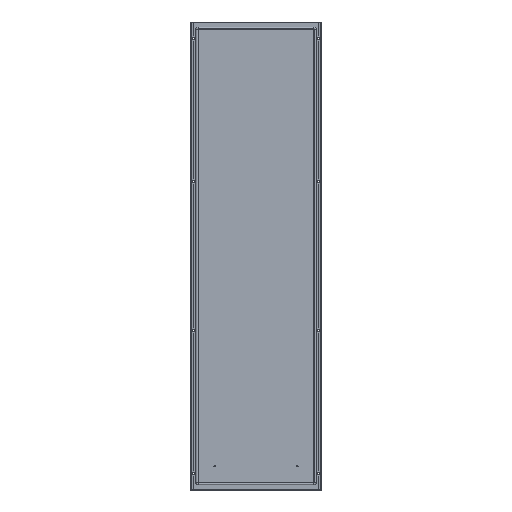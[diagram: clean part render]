
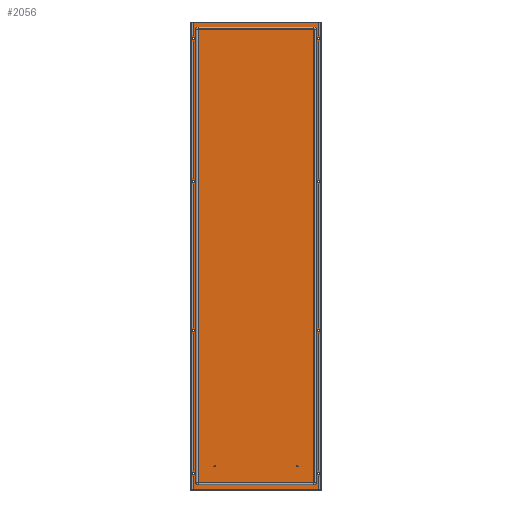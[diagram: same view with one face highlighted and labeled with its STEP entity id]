
A CAD part, top view. The second image highlights one B-rep face of the part: STEP entity #2056.
In plain terms, the highlighted planar face has unit normal (0, 0, 1).
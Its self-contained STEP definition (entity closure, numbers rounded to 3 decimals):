
#1036=CARTESIAN_POINT(' ',(-262.5,312.5,1.5));
#1041=DIRECTION(' ',(0.,0.,-1.));
#1046=DIRECTION(' ',(0.,-1.,0.));
#1051=AXIS2_PLACEMENT_3D(' ',#1036,#1041,#1046);
#1056=CIRCLE('',#1051,4.75);
#1061=CARTESIAN_POINT(' ',(-262.5,307.75,1.5));
#1062=VERTEX_POINT(' ',#1061);
#1066=CARTESIAN_POINT(' ',(-262.5,317.25,1.5));
#1067=VERTEX_POINT(' ',#1066);
#1071=EDGE_CURVE(' ',#1062,#1067,#1056,.T.);
#1201=DIRECTION(' ',(0.,0.,1.));
#1206=CARTESIAN_POINT(' ',(-270.9,-978.4,1.5));
#1211=DIRECTION(' ',(1.,0.,0.));
#1216=AXIS2_PLACEMENT_3D(' ',#1206,#1201,#1211);
#1221=PLANE('NONE',#1216);
#1226=CARTESIAN_POINT(' ',(270.9,-978.4,1.5));
#1231=DIRECTION(' ',(-1.,0.,0.));
#1236=VECTOR(' ',#1231,1.);
#1241=LINE('',#1226,#1236);
#1246=CARTESIAN_POINT(' ',(270.9,-978.4,1.5));
#1247=VERTEX_POINT(' ',#1246);
#1251=CARTESIAN_POINT(' ',(-270.9,-978.4,1.5));
#1252=VERTEX_POINT(' ',#1251);
#1256=EDGE_CURVE(' ',#1247,#1252,#1241,.T.);
#1261=ORIENTED_EDGE(' ',*,*,#1256,.F.);
#1266=CARTESIAN_POINT(' ',(270.9,978.4,1.5));
#1271=DIRECTION(' ',(0.,-1.,0.));
#1276=VECTOR(' ',#1271,1.);
#1281=LINE('',#1266,#1276);
#1286=CARTESIAN_POINT(' ',(270.9,978.4,1.5));
#1287=VERTEX_POINT(' ',#1286);
#1291=EDGE_CURVE(' ',#1287,#1247,#1281,.T.);
#1296=ORIENTED_EDGE(' ',*,*,#1291,.F.);
#1301=CARTESIAN_POINT(' ',(-270.9,978.4,1.5));
#1306=DIRECTION(' ',(1.,0.,0.));
#1311=VECTOR(' ',#1306,1.);
#1316=LINE('',#1301,#1311);
#1321=CARTESIAN_POINT(' ',(-270.9,978.4,1.5));
#1322=VERTEX_POINT(' ',#1321);
#1326=EDGE_CURVE(' ',#1322,#1287,#1316,.T.);
#1331=ORIENTED_EDGE(' ',*,*,#1326,.F.);
#1336=CARTESIAN_POINT(' ',(-270.9,-978.4,1.5));
#1341=DIRECTION(' ',(0.,1.,0.));
#1346=VECTOR(' ',#1341,1.);
#1351=LINE('',#1336,#1346);
#1356=EDGE_CURVE(' ',#1252,#1322,#1351,.T.);
#1361=ORIENTED_EDGE(' ',*,*,#1356,.F.);
#1366=EDGE_LOOP(' ',(#1261,#1296,#1331,#1361));
#1371=FACE_OUTER_BOUND(' ',#1366,.T.);
#1376=CARTESIAN_POINT(' ',(-262.5,-312.5,1.5));
#1381=DIRECTION(' ',(0.,0.,1.));
#1386=DIRECTION(' ',(0.,-1.,0.));
#1391=AXIS2_PLACEMENT_3D(' ',#1376,#1381,#1386);
#1396=CIRCLE('',#1391,4.75);
#1401=CARTESIAN_POINT(' ',(-262.5,-317.25,1.5));
#1402=VERTEX_POINT(' ',#1401);
#1406=CARTESIAN_POINT(' ',(-262.5,-307.75,1.5));
#1407=VERTEX_POINT(' ',#1406);
#1411=EDGE_CURVE(' ',#1402,#1407,#1396,.T.);
#1416=ORIENTED_EDGE(' ',*,*,#1411,.F.);
#1421=CARTESIAN_POINT(' ',(-262.5,-312.5,1.5));
#1426=DIRECTION(' ',(0.,0.,1.));
#1431=DIRECTION(' ',(0.,1.,0.));
#1436=AXIS2_PLACEMENT_3D(' ',#1421,#1426,#1431);
#1441=CIRCLE('',#1436,4.75);
#1446=EDGE_CURVE(' ',#1407,#1402,#1441,.T.);
#1451=ORIENTED_EDGE(' ',*,*,#1446,.F.);
#1456=EDGE_LOOP(' ',(#1416,#1451));
#1461=FACE_BOUND(' ',#1456,.T.);
#1466=CARTESIAN_POINT(' ',(-262.5,312.5,1.5));
#1471=DIRECTION(' ',(0.,0.,-1.));
#1476=DIRECTION(' ',(0.,1.,0.));
#1481=AXIS2_PLACEMENT_3D(' ',#1466,#1471,#1476);
#1486=CIRCLE('',#1481,4.75);
#1491=EDGE_CURVE(' ',#1067,#1062,#1486,.T.);
#1496=ORIENTED_EDGE(' ',*,*,#1491,.T.);
#1501=ORIENTED_EDGE(' ',*,*,#1071,.T.);
#1506=EDGE_LOOP(' ',(#1496,#1501));
#1511=FACE_BOUND(' ',#1506,.T.);
#1516=CARTESIAN_POINT(' ',(262.5,-912.5,1.5));
#1521=DIRECTION(' ',(0.,0.,-1.));
#1526=DIRECTION(' ',(0.,-1.,0.));
#1531=AXIS2_PLACEMENT_3D(' ',#1516,#1521,#1526);
#1536=CIRCLE('',#1531,4.75);
#1541=CARTESIAN_POINT(' ',(262.5,-917.25,1.5));
#1542=VERTEX_POINT(' ',#1541);
#1546=CARTESIAN_POINT(' ',(262.5,-907.75,1.5));
#1547=VERTEX_POINT(' ',#1546);
#1551=EDGE_CURVE(' ',#1542,#1547,#1536,.T.);
#1556=ORIENTED_EDGE(' ',*,*,#1551,.T.);
#1561=CARTESIAN_POINT(' ',(262.5,-912.5,1.5));
#1566=DIRECTION(' ',(0.,0.,-1.));
#1571=DIRECTION(' ',(0.,1.,0.));
#1576=AXIS2_PLACEMENT_3D(' ',#1561,#1566,#1571);
#1581=CIRCLE('',#1576,4.75);
#1586=EDGE_CURVE(' ',#1547,#1542,#1581,.T.);
#1591=ORIENTED_EDGE(' ',*,*,#1586,.T.);
#1596=EDGE_LOOP(' ',(#1556,#1591));
#1601=FACE_BOUND(' ',#1596,.T.);
#1606=CARTESIAN_POINT(' ',(-262.5,-912.5,1.5));
#1611=DIRECTION(' ',(0.,0.,1.));
#1616=DIRECTION(' ',(0.,-1.,0.));
#1621=AXIS2_PLACEMENT_3D(' ',#1606,#1611,#1616);
#1626=CIRCLE('',#1621,4.75);
#1631=CARTESIAN_POINT(' ',(-262.5,-917.25,1.5));
#1632=VERTEX_POINT(' ',#1631);
#1636=CARTESIAN_POINT(' ',(-262.5,-907.75,1.5));
#1637=VERTEX_POINT(' ',#1636);
#1641=EDGE_CURVE(' ',#1632,#1637,#1626,.T.);
#1646=ORIENTED_EDGE(' ',*,*,#1641,.F.);
#1651=CARTESIAN_POINT(' ',(-262.5,-912.5,1.5));
#1656=DIRECTION(' ',(0.,0.,1.));
#1661=DIRECTION(' ',(0.,1.,0.));
#1666=AXIS2_PLACEMENT_3D(' ',#1651,#1656,#1661);
#1671=CIRCLE('',#1666,4.75);
#1676=EDGE_CURVE(' ',#1637,#1632,#1671,.T.);
#1681=ORIENTED_EDGE(' ',*,*,#1676,.F.);
#1686=EDGE_LOOP(' ',(#1646,#1681));
#1691=FACE_BOUND(' ',#1686,.T.);
#1696=CARTESIAN_POINT(' ',(-262.5,912.5,1.5));
#1701=DIRECTION(' ',(0.,0.,-1.));
#1706=DIRECTION(' ',(0.,1.,0.));
#1711=AXIS2_PLACEMENT_3D(' ',#1696,#1701,#1706);
#1716=CIRCLE('',#1711,4.75);
#1721=CARTESIAN_POINT(' ',(-262.5,917.25,1.5));
#1722=VERTEX_POINT(' ',#1721);
#1726=CARTESIAN_POINT(' ',(-262.5,907.75,1.5));
#1727=VERTEX_POINT(' ',#1726);
#1731=EDGE_CURVE(' ',#1722,#1727,#1716,.T.);
#1736=ORIENTED_EDGE(' ',*,*,#1731,.T.);
#1741=CARTESIAN_POINT(' ',(-262.5,912.5,1.5));
#1746=DIRECTION(' ',(0.,0.,-1.));
#1751=DIRECTION(' ',(0.,-1.,0.));
#1756=AXIS2_PLACEMENT_3D(' ',#1741,#1746,#1751);
#1761=CIRCLE('',#1756,4.75);
#1766=EDGE_CURVE(' ',#1727,#1722,#1761,.T.);
#1771=ORIENTED_EDGE(' ',*,*,#1766,.T.);
#1776=EDGE_LOOP(' ',(#1736,#1771));
#1781=FACE_BOUND(' ',#1776,.T.);
#1786=CARTESIAN_POINT(' ',(262.5,-312.5,1.5));
#1791=DIRECTION(' ',(0.,0.,-1.));
#1796=DIRECTION(' ',(0.,-1.,0.));
#1801=AXIS2_PLACEMENT_3D(' ',#1786,#1791,#1796);
#1806=CIRCLE('',#1801,4.75);
#1811=CARTESIAN_POINT(' ',(262.5,-317.25,1.5));
#1812=VERTEX_POINT(' ',#1811);
#1816=CARTESIAN_POINT(' ',(262.5,-307.75,1.5));
#1817=VERTEX_POINT(' ',#1816);
#1821=EDGE_CURVE(' ',#1812,#1817,#1806,.T.);
#1826=ORIENTED_EDGE(' ',*,*,#1821,.T.);
#1831=CARTESIAN_POINT(' ',(262.5,-312.5,1.5));
#1836=DIRECTION(' ',(0.,0.,-1.));
#1841=DIRECTION(' ',(0.,1.,0.));
#1846=AXIS2_PLACEMENT_3D(' ',#1831,#1836,#1841);
#1851=CIRCLE('',#1846,4.75);
#1856=EDGE_CURVE(' ',#1817,#1812,#1851,.T.);
#1861=ORIENTED_EDGE(' ',*,*,#1856,.T.);
#1866=EDGE_LOOP(' ',(#1826,#1861));
#1871=FACE_BOUND(' ',#1866,.T.);
#1876=CARTESIAN_POINT(' ',(262.5,912.5,1.5));
#1881=DIRECTION(' ',(0.,0.,1.));
#1886=DIRECTION(' ',(0.,1.,0.));
#1891=AXIS2_PLACEMENT_3D(' ',#1876,#1881,#1886);
#1896=CIRCLE('',#1891,4.75);
#1901=CARTESIAN_POINT(' ',(262.5,917.25,1.5));
#1902=VERTEX_POINT(' ',#1901);
#1906=CARTESIAN_POINT(' ',(262.5,907.75,1.5));
#1907=VERTEX_POINT(' ',#1906);
#1911=EDGE_CURVE(' ',#1902,#1907,#1896,.T.);
#1916=ORIENTED_EDGE(' ',*,*,#1911,.F.);
#1921=CARTESIAN_POINT(' ',(262.5,912.5,1.5));
#1926=DIRECTION(' ',(0.,0.,1.));
#1931=DIRECTION(' ',(0.,-1.,0.));
#1936=AXIS2_PLACEMENT_3D(' ',#1921,#1926,#1931);
#1941=CIRCLE('',#1936,4.75);
#1946=EDGE_CURVE(' ',#1907,#1902,#1941,.T.);
#1951=ORIENTED_EDGE(' ',*,*,#1946,.F.);
#1956=EDGE_LOOP(' ',(#1916,#1951));
#1961=FACE_BOUND(' ',#1956,.T.);
#1966=CARTESIAN_POINT(' ',(262.5,312.5,1.5));
#1971=DIRECTION(' ',(0.,0.,1.));
#1976=DIRECTION(' ',(0.,1.,0.));
#1981=AXIS2_PLACEMENT_3D(' ',#1966,#1971,#1976);
#1986=CIRCLE('',#1981,4.75);
#1991=CARTESIAN_POINT(' ',(262.5,317.25,1.5));
#1992=VERTEX_POINT(' ',#1991);
#1996=CARTESIAN_POINT(' ',(262.5,307.75,1.5));
#1997=VERTEX_POINT(' ',#1996);
#2001=EDGE_CURVE(' ',#1992,#1997,#1986,.T.);
#2006=ORIENTED_EDGE(' ',*,*,#2001,.F.);
#2011=CARTESIAN_POINT(' ',(262.5,312.5,1.5));
#2016=DIRECTION(' ',(0.,0.,1.));
#2021=DIRECTION(' ',(0.,-1.,0.));
#2026=AXIS2_PLACEMENT_3D(' ',#2011,#2016,#2021);
#2031=CIRCLE('',#2026,4.75);
#2036=EDGE_CURVE(' ',#1997,#1992,#2031,.T.);
#2041=ORIENTED_EDGE(' ',*,*,#2036,.F.);
#2046=EDGE_LOOP(' ',(#2006,#2041));
#2051=FACE_BOUND(' ',#2046,.T.);
#2056=ADVANCED_FACE('NONE',(#1371,#1461,#1511,#1601,#1691,#1781,#1871,#1961,#2051),#1221,.T.);
